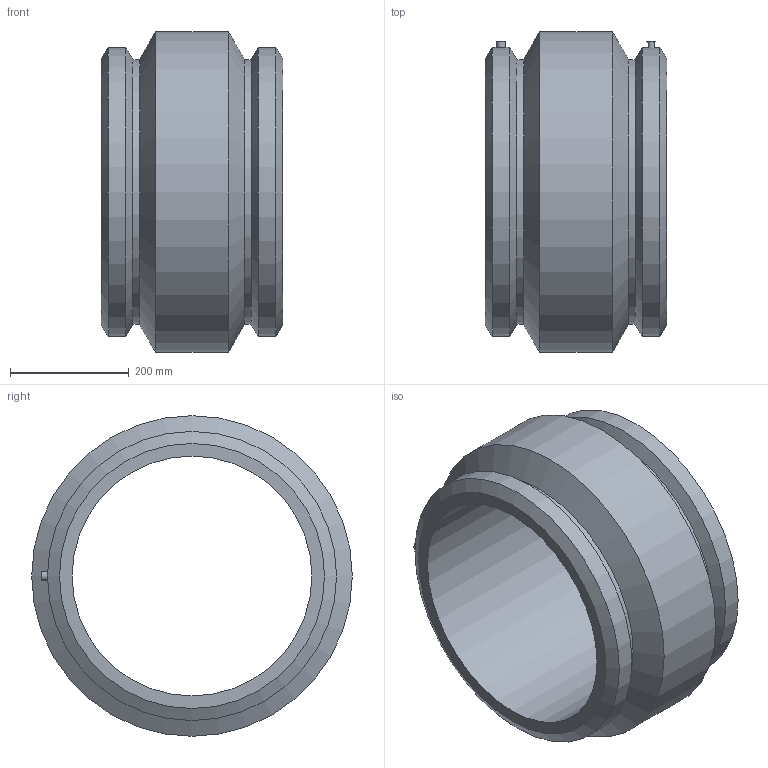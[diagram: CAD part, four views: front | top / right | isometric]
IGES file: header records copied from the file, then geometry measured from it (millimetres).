
Global section: file name: 5901D003160.ipt; native system: Autodesk Inventor 2019; preprocessor: unknown; author: KIM; date: 20210830.100916; units: inch
Bounding box: 306.83 x 541.02 x 541.02 mm (x, y, z)
Volume: 22061674.2 mm3; surface area: 1088109.1 mm2
Topology: 2 solids, 2 shells, 28 faces, 56 edges, 36 vertices
Faces by surface type: cylinder 9, plane 8, cone 6, revolution 3, bspline 2
Full cylindrical faces by diameter (mm): 4 x2, 15 x2, 447.04 x2, 487.68 x2, 541.02 x1
